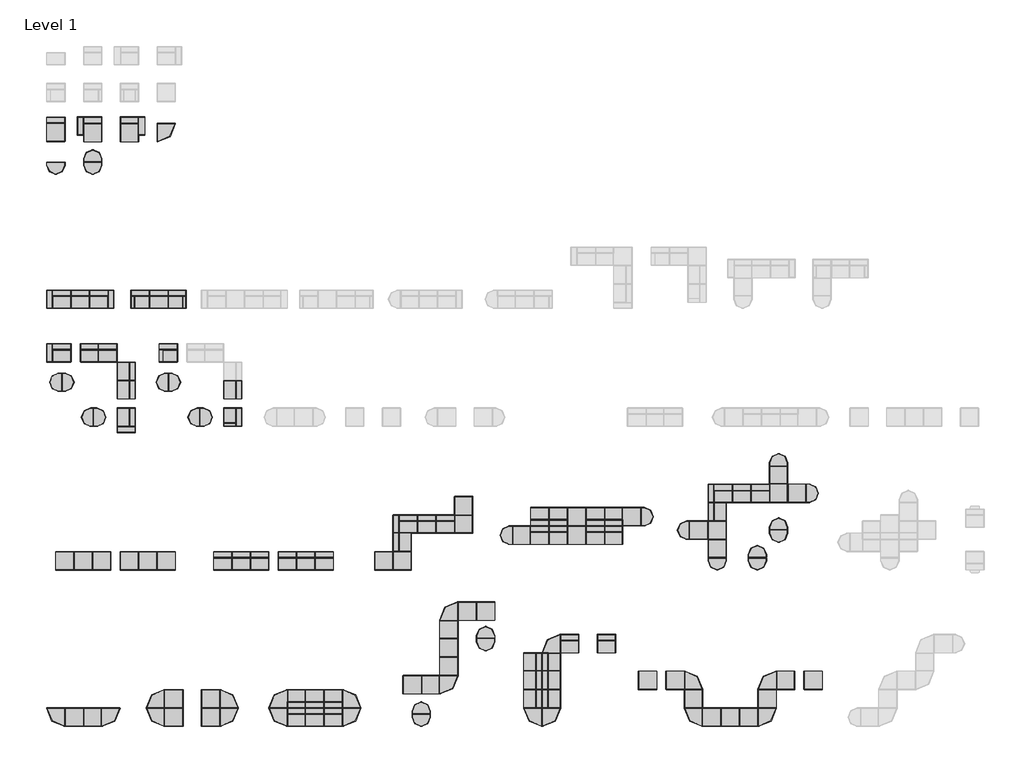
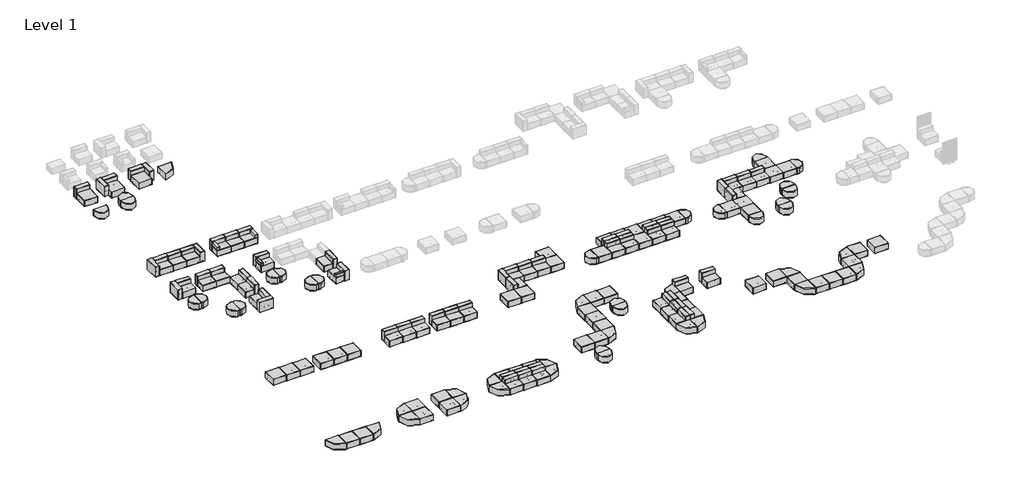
# One storey, part 1 of 2: 132 furniture elements.
"""IFC4 building model written with IfcOpenShell, lengths in millimetres."""

from ifc_helpers import new_model, si_unit, origin, place, context, project, spatial, transform, mapped, element, save
from components import furniture_3ffb0636, furniture_b39dd79e, furniture_9625b8b5, furniture_e837e3ce, furniture_8b4e13db, furniture_611754e7, furniture_8cec5439, furniture_a2253782, furniture_31a3f507, furniture_95acf05c, furniture_133fbe17, furniture_507b51de, furniture_429ba365, furniture_8747c72a, furniture_520fb8d5, furniture_e2d3b3b4, furniture_0edc51ff, furniture_c2843c0f

model = new_model("IFC4")

# Units and contexts
model_context = context("Model", 3, world=origin())
ifc_project = project(units=[si_unit("LENGTHUNIT", "METRE", prefix="MILLI")], contexts=[model_context])

# Site, building, storey
site = spatial("IfcSite", under=ifc_project)
building = spatial("IfcBuilding", under=site)
storey = spatial("IfcBuildingStorey", under=building, Name="Level 1", Elevation=0.0)

# Furniture
placement = place(None, origin())
furniture_shape = furniture_3ffb0636(model_context)
element("IfcFurniture", 1, ObjectType="KFI Studios - Conversa : 24”x36” Seat with Back", at=placement, inside=storey, context=model_context, shape_type="MappedRepresentation", body=[
    mapped(furniture_shape, transform((-1487.8131304, -9663.2904078, 0.0), x_axis=(1.0, 0.0, 0.0), y_axis=(0.0, 1.0, 0.0), z_axis=(0.0, 0.0, 1.0))),
])
element("IfcFurniture", 2, ObjectType="KFI Studios - Conversa : 24”x36” Seat with Back", at=placement, inside=storey, context=model_context, shape_type="MappedRepresentation", body=[
    mapped(furniture_shape, transform((-5380.3336001, -9663.2904078, 0.0), x_axis=(1.0, 0.0, 0.0), y_axis=(0.0, 1.0, 0.0), z_axis=(0.0, 0.0, 1.0))),
])
element("IfcFurniture", 3, ObjectType="KFI Studios - Conversa : 24”x36” Seat with Back", at=placement, inside=storey, context=model_context, shape_type="MappedRepresentation", body=[
    mapped(furniture_shape, transform((-4923.1336001, -12327.6582706, 0.0), x_axis=(1.0, 0.0, 0.0), y_axis=(0.0, 1.0, 0.0), z_axis=(0.0, 0.0, 1.0))),
])
element("IfcFurniture", 4, ObjectType="KFI Studios - Conversa : 24”x36” Seat with Back", at=placement, inside=storey, context=model_context, shape_type="MappedRepresentation", body=[
    mapped(furniture_shape, transform((-4008.7336001, -12327.6582706, 0.0), x_axis=(1.0, 0.0, 0.0), y_axis=(0.0, 1.0, 0.0), z_axis=(0.0, 0.0, 1.0))),
])
element("IfcFurniture", 5, ObjectType="KFI Studios - Conversa : 24”x36” Seat with Back", at=placement, inside=storey, context=model_context, shape_type="MappedRepresentation", body=[
    mapped(furniture_shape, transform((-3246.7336001, -13089.6582706, 0.0), x_axis=(0.0, -1.0, 0.0), y_axis=(1.0, 0.0, 0.0), z_axis=(0.0, 0.0, 1.0))),
])
element("IfcFurniture", 6, ObjectType="KFI Studios - Conversa : 24”x36” Seat with Back", at=placement, inside=storey, context=model_context, shape_type="MappedRepresentation", body=[
    mapped(furniture_shape, transform((-3246.7336001, -14004.0582706, 0.0), x_axis=(0.0, -1.0, 0.0), y_axis=(1.0, 0.0, 0.0), z_axis=(0.0, 0.0, 1.0))),
])
element("IfcFurniture", 7, ObjectType="KFI Studios - Conversa : 24”x36” Seat with Back", at=placement, inside=storey, context=model_context, shape_type="MappedRepresentation", body=[
    mapped(furniture_shape, transform((2049.7647975, -14004.0582706, 0.0), x_axis=(0.0, -1.0, 0.0), y_axis=(1.0, 0.0, 0.0), z_axis=(0.0, 0.0, 1.0))),
])
element("IfcFurniture", 8, ObjectType="KFI Studios - Conversa : 24”x36” Seat with Back", at=placement, inside=storey, context=model_context, shape_type="MappedRepresentation", body=[
    mapped(furniture_shape, transform((3540.7191245, -22668.3371987, 0.0), x_axis=(1.0, 0.0, 0.0), y_axis=(0.0, 1.0, 0.0), z_axis=(0.0, 0.0, 1.0))),
])
element("IfcFurniture", 9, ObjectType="KFI Studios - Conversa : 24”x36” Seat with Back", at=placement, inside=storey, context=model_context, shape_type="MappedRepresentation", body=[
    mapped(furniture_shape, transform((2626.3191245, -22668.3371987, 0.0), x_axis=(1.0, 0.0, 0.0), y_axis=(0.0, 1.0, 0.0), z_axis=(0.0, 0.0, 1.0))),
])
element("IfcFurniture", 10, ObjectType="KFI Studios - Conversa : 24”x36” Seat with Back", at=placement, inside=storey, context=model_context, shape_type="MappedRepresentation", body=[
    mapped(furniture_shape, transform((1711.9191245, -22668.3371987, 0.0), x_axis=(1.0, 0.0, 0.0), y_axis=(0.0, 1.0, 0.0), z_axis=(0.0, 0.0, 1.0))),
])
element("IfcFurniture", 11, ObjectType="KFI Studios - Conversa : 24”x36” Seat with Back", at=placement, inside=storey, context=model_context, shape_type="MappedRepresentation", body=[
    mapped(furniture_shape, transform((6741.1191245, -22668.3371987, 0.0), x_axis=(1.0, 0.0, 0.0), y_axis=(0.0, 1.0, 0.0), z_axis=(0.0, 0.0, 1.0))),
])
element("IfcFurniture", 12, ObjectType="KFI Studios - Conversa : 24”x36” Seat with Back", at=placement, inside=storey, context=model_context, shape_type="MappedRepresentation", body=[
    mapped(furniture_shape, transform((5826.7191245, -22668.3371987, 0.0), x_axis=(1.0, 0.0, 0.0), y_axis=(0.0, 1.0, 0.0), z_axis=(0.0, 0.0, 1.0))),
])
element("IfcFurniture", 13, ObjectType="KFI Studios - Conversa : 24”x36” Seat with Back", at=placement, inside=storey, context=model_context, shape_type="MappedRepresentation", body=[
    mapped(furniture_shape, transform((4912.3191245, -22668.3371987, 0.0), x_axis=(1.0, 0.0, 0.0), y_axis=(0.0, 1.0, 0.0), z_axis=(0.0, 0.0, 1.0))),
])
element("IfcFurniture", 14, ObjectType="KFI Studios - Conversa : 24”x36” Seat with Back", at=placement, inside=storey, context=model_context, shape_type="MappedRepresentation", body=[
    mapped(furniture_shape, transform((10774.0663999, -21601.5371987, 0.0), x_axis=(0.0, 1.0, 0.0), y_axis=(-1.0, 0.0, 0.0), z_axis=(0.0, 0.0, 1.0))),
])
element("IfcFurniture", 15, ObjectType="KFI Studios - Conversa : 24”x36” Seat with Back", at=placement, inside=storey, context=model_context, shape_type="MappedRepresentation", body=[
    mapped(furniture_shape, transform((11840.8663999, -20839.5371987, 0.0), x_axis=(1.0, 0.0, 0.0), y_axis=(0.0, 1.0, 0.0), z_axis=(0.0, 0.0, 1.0))),
])
element("IfcFurniture", 16, ObjectType="KFI Studios - Conversa : 24”x36” Seat with Back", at=placement, inside=storey, context=model_context, shape_type="MappedRepresentation", body=[
    mapped(furniture_shape, transform((12755.2663999, -20839.5371987, 0.0), x_axis=(1.0, 0.0, 0.0), y_axis=(0.0, 1.0, 0.0), z_axis=(0.0, 0.0, 1.0))),
])
element("IfcFurniture", 17, ObjectType="KFI Studios - Conversa : 24”x36” Seat with Back", at=placement, inside=storey, context=model_context, shape_type="MappedRepresentation", body=[
    mapped(furniture_shape, transform((17470.3030579, -21388.4615326, 0.0), x_axis=(1.0, 0.0, 0.0), y_axis=(0.0, 1.0, 0.0), z_axis=(0.0, 0.0, 1.0))),
])
element("IfcFurniture", 18, ObjectType="KFI Studios - Conversa : 24”x36” Seat with Back", at=placement, inside=storey, context=model_context, shape_type="MappedRepresentation", body=[
    mapped(furniture_shape, transform((18384.7030579, -21388.4615326, 0.0), x_axis=(1.0, 0.0, 0.0), y_axis=(0.0, 1.0, 0.0), z_axis=(0.0, 0.0, 1.0))),
])
element("IfcFurniture", 19, ObjectType="KFI Studios - Conversa : 24”x36” Seat with Back", at=placement, inside=storey, context=model_context, shape_type="MappedRepresentation", body=[
    mapped(furniture_shape, transform((20213.5030579, -21388.4615326, 0.0), x_axis=(1.0, 0.0, 0.0), y_axis=(0.0, 1.0, 0.0), z_axis=(0.0, 0.0, 1.0))),
])
element("IfcFurniture", 20, ObjectType="KFI Studios - Conversa : 24”x36” Seat with Back", at=placement, inside=storey, context=model_context, shape_type="MappedRepresentation", body=[
    mapped(furniture_shape, transform((21127.9030579, -21388.4615326, 0.0), x_axis=(1.0, 0.0, 0.0), y_axis=(0.0, 1.0, 0.0), z_axis=(0.0, 0.0, 1.0))),
])
element("IfcFurniture", 21, ObjectType="KFI Studios - Conversa : 24”x36” Seat with Back", at=placement, inside=storey, context=model_context, shape_type="MappedRepresentation", body=[
    mapped(furniture_shape, transform((26437.8923625, -20077.5371987, 0.0), x_axis=(0.0, 1.0, 0.0), y_axis=(-1.0, 0.0, 0.0), z_axis=(0.0, 0.0, 1.0))),
])
element("IfcFurniture", 22, ObjectType="KFI Studios - Conversa : 24”x36” Seat with Back", at=placement, inside=storey, context=model_context, shape_type="MappedRepresentation", body=[
    mapped(furniture_shape, transform((27504.6923625, -19315.5371987, 0.0), x_axis=(1.0, 0.0, 0.0), y_axis=(0.0, 1.0, 0.0), z_axis=(0.0, 0.0, 1.0))),
])
element("IfcFurniture", 23, ObjectType="KFI Studios - Conversa : 24”x36” Seat with Back", at=placement, inside=storey, context=model_context, shape_type="MappedRepresentation", body=[
    mapped(furniture_shape, transform((28419.0923625, -19315.5371987, 0.0), x_axis=(1.0, 0.0, 0.0), y_axis=(0.0, 1.0, 0.0), z_axis=(0.0, 0.0, 1.0))),
])
element("IfcFurniture", 24, ObjectType="KFI Studios - Conversa : 24”x36” Seat with Back", at=placement, inside=storey, context=model_context, shape_type="MappedRepresentation", body=[
    mapped(furniture_shape, transform((5370.1868696, -30440.7371987, 0.0), x_axis=(1.0, 0.0, 0.0), y_axis=(0.0, 1.0, 0.0), z_axis=(0.0, 0.0, 1.0))),
])
element("IfcFurniture", 25, ObjectType="KFI Studios - Conversa : 24”x36” Seat with Back", at=placement, inside=storey, context=model_context, shape_type="MappedRepresentation", body=[
    mapped(furniture_shape, transform((6284.5868696, -30440.7371987, 0.0), x_axis=(1.0, 0.0, 0.0), y_axis=(0.0, 1.0, 0.0), z_axis=(0.0, 0.0, 1.0))),
])
element("IfcFurniture", 26, ObjectType="KFI Studios - Conversa : 24”x36” Seat with Back", at=placement, inside=storey, context=model_context, shape_type="MappedRepresentation", body=[
    mapped(furniture_shape, transform((7198.9868696, -30440.7371987, 0.0), x_axis=(1.0, 0.0, 0.0), y_axis=(0.0, 1.0, 0.0), z_axis=(0.0, 0.0, 1.0))),
])
element("IfcFurniture", 27, ObjectType="KFI Studios - Conversa : 24”x36” Seat with Back", at=placement, inside=storey, context=model_context, shape_type="MappedRepresentation", body=[
    mapped(furniture_shape, transform((16969.4976327, -29373.9371987, 0.0), x_axis=(0.0, -1.0, 0.0), y_axis=(1.0, 0.0, 0.0), z_axis=(0.0, 0.0, 1.0))),
])
element("IfcFurniture", 28, ObjectType="KFI Studios - Conversa : 24”x36” Seat with Back", at=placement, inside=storey, context=model_context, shape_type="MappedRepresentation", body=[
    mapped(furniture_shape, transform((18188.6976327, -29373.9371987, 0.0), x_axis=(0.0, 1.0, 0.0), y_axis=(-1.0, 0.0, 0.0), z_axis=(0.0, 0.0, 1.0))),
])
element("IfcFurniture", 29, ObjectType="KFI Studios - Conversa : 24”x36” Seat with Back", at=placement, inside=storey, context=model_context, shape_type="MappedRepresentation", body=[
    mapped(furniture_shape, transform((18188.6976327, -28459.5371987, 0.0), x_axis=(0.0, 1.0, 0.0), y_axis=(-1.0, 0.0, 0.0), z_axis=(0.0, 0.0, 1.0))),
])
element("IfcFurniture", 30, ObjectType="KFI Studios - Conversa : 24”x36” Seat with Back", at=placement, inside=storey, context=model_context, shape_type="MappedRepresentation", body=[
    mapped(furniture_shape, transform((18188.6976327, -27545.1371987, 0.0), x_axis=(0.0, 1.0, 0.0), y_axis=(-1.0, 0.0, 0.0), z_axis=(0.0, 0.0, 1.0))),
])
element("IfcFurniture", 31, ObjectType="KFI Studios - Conversa : 24”x36” Seat with Back", at=placement, inside=storey, context=model_context, shape_type="MappedRepresentation", body=[
    mapped(furniture_shape, transform((16969.4976327, -28459.5371987, 0.0), x_axis=(0.0, -1.0, 0.0), y_axis=(1.0, 0.0, 0.0), z_axis=(0.0, 0.0, 1.0))),
])
element("IfcFurniture", 32, ObjectType="KFI Studios - Conversa : 24”x36” Seat with Back", at=placement, inside=storey, context=model_context, shape_type="MappedRepresentation", body=[
    mapped(furniture_shape, transform((16969.4976327, -27545.1371987, 0.0), x_axis=(0.0, -1.0, 0.0), y_axis=(1.0, 0.0, 0.0), z_axis=(0.0, 0.0, 1.0))),
])
element("IfcFurniture", 33, ObjectType="KFI Studios - Conversa : 24”x36” Seat with Back", at=placement, inside=storey, context=model_context, shape_type="MappedRepresentation", body=[
    mapped(furniture_shape, transform((18950.6976327, -26783.1371987, 0.0), x_axis=(1.0, 0.0, 0.0), y_axis=(0.0, 1.0, 0.0), z_axis=(0.0, 0.0, 1.0))),
])
element("IfcFurniture", 34, ObjectType="KFI Studios - Conversa : 24”x36” Seat with Back", at=placement, inside=storey, context=model_context, shape_type="MappedRepresentation", body=[
    mapped(furniture_shape, transform((20779.4976327, -26783.1371987, 0.0), x_axis=(1.0, 0.0, 0.0), y_axis=(0.0, 1.0, 0.0), z_axis=(0.0, 0.0, 1.0))),
])
furniture_2_shape = furniture_b39dd79e(model_context)
furniture_3_shape = furniture_9625b8b5(model_context)
element("IfcFurniture", 35, ObjectType="KFI Studios - Conversa : 24”x36” Seat - Left Corner", at=placement, inside=storey, context=model_context, shape_type="MappedRepresentation", body=[
    mapped(furniture_2_shape, transform((-4465.9336001, -9663.2904078, 0.0), x_axis=(1.0, 0.0, 0.0), y_axis=(0.0, 1.0, 0.0), z_axis=(0.0, 0.0, 1.0))),
    mapped(furniture_3_shape, transform((-4465.9336001, -9663.2904078, 0.0), x_axis=(1.0, 0.0, 0.0), y_axis=(0.0, 1.0, 0.0), z_axis=(0.0, 0.0, 1.0))),
])
element("IfcFurniture", 36, ObjectType="KFI Studios - Conversa : 24”x36” Seat - Left Corner", at=placement, inside=storey, context=model_context, shape_type="MappedRepresentation", body=[
    mapped(furniture_2_shape, transform((-3246.7336001, -15375.6582706, 0.0), x_axis=(0.0, -1.0, 0.0), y_axis=(1.0, 0.0, 0.0), z_axis=(0.0, 0.0, 1.0))),
    mapped(furniture_3_shape, transform((-3246.7336001, -15375.6582706, 0.0), x_axis=(0.0, -1.0, 0.0), y_axis=(1.0, 0.0, 0.0), z_axis=(0.0, 0.0, 1.0))),
])
furniture_4_shape = furniture_e837e3ce(model_context)
element("IfcFurniture", 37, ObjectType="KFI Studios - Conversa : 24”x36” Seat - Right Corner", at=placement, inside=storey, context=model_context, shape_type="MappedRepresentation", body=[
    mapped(furniture_4_shape, transform((-6294.7336001, -9663.2904078, 0.0), x_axis=(1.0, 0.0, 0.0), y_axis=(0.0, 1.0, 0.0), z_axis=(0.0, 0.0, 1.0))),
    mapped(furniture_3_shape, transform((-6294.7336001, -9663.2904078, 0.0), x_axis=(1.0, 0.0, 0.0), y_axis=(0.0, 1.0, 0.0), z_axis=(0.0, 0.0, 1.0))),
])
element("IfcFurniture", 38, ObjectType="KFI Studios - Conversa : 24”x36” Seat - Right Corner", at=placement, inside=storey, context=model_context, shape_type="MappedRepresentation", body=[
    mapped(furniture_4_shape, transform((-6294.7336001, -12327.6582706, 0.0), x_axis=(1.0, 0.0, 0.0), y_axis=(0.0, 1.0, 0.0), z_axis=(0.0, 0.0, 1.0))),
    mapped(furniture_3_shape, transform((-6294.7336001, -12327.6582706, 0.0), x_axis=(1.0, 0.0, 0.0), y_axis=(0.0, 1.0, 0.0), z_axis=(0.0, 0.0, 1.0))),
])
element("IfcFurniture", 39, ObjectType="KFI Studios - Conversa : 24”x36” Seat - Right Corner", at=placement, inside=storey, context=model_context, shape_type="MappedRepresentation", body=[
    mapped(furniture_4_shape, transform((10926.4663999, -20839.5371987, 0.0), x_axis=(1.0, 0.0, 0.0), y_axis=(0.0, 1.0, 0.0), z_axis=(0.0, 0.0, 1.0))),
    mapped(furniture_3_shape, transform((10926.4663999, -20839.5371987, 0.0), x_axis=(1.0, 0.0, 0.0), y_axis=(0.0, 1.0, 0.0), z_axis=(0.0, 0.0, 1.0))),
])
element("IfcFurniture", 40, ObjectType="KFI Studios - Conversa : 24”x36” Seat - Right Corner", at=placement, inside=storey, context=model_context, shape_type="MappedRepresentation", body=[
    mapped(furniture_4_shape, transform((26590.2923625, -19315.5371987, 0.0), x_axis=(1.0, 0.0, 0.0), y_axis=(0.0, 1.0, 0.0), z_axis=(0.0, 0.0, 1.0))),
    mapped(furniture_3_shape, transform((26590.2923625, -19315.5371987, 0.0), x_axis=(1.0, 0.0, 0.0), y_axis=(0.0, 1.0, 0.0), z_axis=(0.0, 0.0, 1.0))),
])
furniture_5_shape = furniture_8b4e13db(model_context)
furniture_6_shape = furniture_611754e7(model_context)
element("IfcFurniture", 41, ObjectType="KFI Studios - Conversa : 24”x36” Seat - Right Corner, Small Arm", at=placement, inside=storey, context=model_context, shape_type="MappedRepresentation", body=[
    mapped(furniture_5_shape, transform((-2402.2131304, -9663.2904078, 0.0), x_axis=(1.0, 0.0, 0.0), y_axis=(0.0, 1.0, 0.0), z_axis=(0.0, 0.0, 1.0))),
    mapped(furniture_6_shape, transform((-2402.2131304, -9663.2904078, 0.0), x_axis=(1.0, 0.0, 0.0), y_axis=(0.0, 1.0, 0.0), z_axis=(0.0, 0.0, 1.0))),
])
element("IfcFurniture", 42, ObjectType="KFI Studios - Conversa : 24”x36” Seat - Right Corner, Small Arm", at=placement, inside=storey, context=model_context, shape_type="MappedRepresentation", body=[
    mapped(furniture_5_shape, transform((-998.2352025, -12327.6582706, 0.0), x_axis=(1.0, 0.0, 0.0), y_axis=(0.0, 1.0, 0.0), z_axis=(0.0, 0.0, 1.0))),
    mapped(furniture_6_shape, transform((-998.2352025, -12327.6582706, 0.0), x_axis=(1.0, 0.0, 0.0), y_axis=(0.0, 1.0, 0.0), z_axis=(0.0, 0.0, 1.0))),
])
furniture_7_shape = furniture_8cec5439(model_context)
element("IfcFurniture", 43, ObjectType="KFI Studios - Conversa : 24”x36” Seat - Left Corner, Small Arm", at=placement, inside=storey, context=model_context, shape_type="MappedRepresentation", body=[
    mapped(furniture_7_shape, transform((-573.4131304, -9663.2904078, 0.0), x_axis=(1.0, 0.0, 0.0), y_axis=(0.0, 1.0, 0.0), z_axis=(0.0, 0.0, 1.0))),
    mapped(furniture_6_shape, transform((-573.4131304, -9663.2904078, 0.0), x_axis=(1.0, 0.0, 0.0), y_axis=(0.0, 1.0, 0.0), z_axis=(0.0, 0.0, 1.0))),
])
element("IfcFurniture", 44, ObjectType="KFI Studios - Conversa : 24”x36” Seat - Left Corner, Small Arm", at=placement, inside=storey, context=model_context, shape_type="MappedRepresentation", body=[
    mapped(furniture_7_shape, transform((2049.7647975, -15375.6582706, 0.0), x_axis=(0.0, -1.0, 0.0), y_axis=(1.0, 0.0, 0.0), z_axis=(0.0, 0.0, 1.0))),
    mapped(furniture_6_shape, transform((2049.7647975, -15375.6582706, 0.0), x_axis=(0.0, -1.0, 0.0), y_axis=(1.0, 0.0, 0.0), z_axis=(0.0, 0.0, 1.0))),
])
furniture_8_shape = furniture_a2253782(model_context)
element("IfcFurniture", 45, ObjectType="KFI Studios - Conversa : 36”x36” Seat", at=placement, inside=storey, context=model_context, shape_type="MappedRepresentation", body=[
    mapped(furniture_8_shape, transform((-4313.5336001, -22515.9371987, 0.0), x_axis=(1.0, 0.0, 0.0), y_axis=(0.0, 1.0, 0.0), z_axis=(0.0, 0.0, 1.0))),
])
element("IfcFurniture", 46, ObjectType="KFI Studios - Conversa : 36”x36” Seat", at=placement, inside=storey, context=model_context, shape_type="MappedRepresentation", body=[
    mapped(furniture_8_shape, transform((-5227.9336001, -22515.9371987, 0.0), x_axis=(1.0, 0.0, 0.0), y_axis=(0.0, 1.0, 0.0), z_axis=(0.0, 0.0, 1.0))),
])
element("IfcFurniture", 47, ObjectType="KFI Studios - Conversa : 36”x36” Seat", at=placement, inside=storey, context=model_context, shape_type="MappedRepresentation", body=[
    mapped(furniture_8_shape, transform((-6142.3336001, -22515.9371987, 0.0), x_axis=(1.0, 0.0, 0.0), y_axis=(0.0, 1.0, 0.0), z_axis=(0.0, 0.0, 1.0))),
])
element("IfcFurniture", 48, ObjectType="KFI Studios - Conversa : 36”x36” Seat", at=placement, inside=storey, context=model_context, shape_type="MappedRepresentation", body=[
    mapped(furniture_8_shape, transform((-1113.1336001, -22515.9371987, 0.0), x_axis=(1.0, 0.0, 0.0), y_axis=(0.0, 1.0, 0.0), z_axis=(0.0, 0.0, 1.0))),
])
element("IfcFurniture", 49, ObjectType="KFI Studios - Conversa : 36”x36” Seat", at=placement, inside=storey, context=model_context, shape_type="MappedRepresentation", body=[
    mapped(furniture_8_shape, transform((-2027.5336001, -22515.9371987, 0.0), x_axis=(1.0, 0.0, 0.0), y_axis=(0.0, 1.0, 0.0), z_axis=(0.0, 0.0, 1.0))),
])
element("IfcFurniture", 50, ObjectType="KFI Studios - Conversa : 36”x36” Seat", at=placement, inside=storey, context=model_context, shape_type="MappedRepresentation", body=[
    mapped(furniture_8_shape, transform((-2941.9336001, -22515.9371987, 0.0), x_axis=(1.0, 0.0, 0.0), y_axis=(0.0, 1.0, 0.0), z_axis=(0.0, 0.0, 1.0))),
])
element("IfcFurniture", 51, ObjectType="KFI Studios - Conversa : 36”x36” Seat", at=placement, inside=storey, context=model_context, shape_type="MappedRepresentation", body=[
    mapped(furniture_8_shape, transform((10621.6663999, -22515.9371987, 0.0), x_axis=(0.0, 1.0, 0.0), y_axis=(-1.0, 0.0, 0.0), z_axis=(0.0, 0.0, 1.0))),
])
element("IfcFurniture", 52, ObjectType="KFI Studios - Conversa : 36”x36” Seat", at=placement, inside=storey, context=model_context, shape_type="MappedRepresentation", body=[
    mapped(furniture_8_shape, transform((9707.2663999, -22515.9371987, 0.0), x_axis=(1.0, 0.0, 0.0), y_axis=(0.0, 1.0, 0.0), z_axis=(0.0, 0.0, 1.0))),
])
element("IfcFurniture", 53, ObjectType="KFI Studios - Conversa : 36”x36” Seat", at=placement, inside=storey, context=model_context, shape_type="MappedRepresentation", body=[
    mapped(furniture_8_shape, transform((13669.6663999, -20687.1371987, 0.0), x_axis=(1.0, 0.0, 0.0), y_axis=(0.0, 1.0, 0.0), z_axis=(0.0, 0.0, 1.0))),
])
element("IfcFurniture", 54, ObjectType="KFI Studios - Conversa : 36”x36” Seat", at=placement, inside=storey, context=model_context, shape_type="MappedRepresentation", body=[
    mapped(furniture_8_shape, transform((13669.6663999, -19772.7371987, 0.0), x_axis=(1.0, 0.0, 0.0), y_axis=(0.0, 1.0, 0.0), z_axis=(0.0, 0.0, 1.0))),
])
element("IfcFurniture", 55, ObjectType="KFI Studios - Conversa : 36”x36” Seat", at=placement, inside=storey, context=model_context, shape_type="MappedRepresentation", body=[
    mapped(furniture_8_shape, transform((16555.9030579, -21236.0615326, 0.0), x_axis=(1.0, 0.0, 0.0), y_axis=(0.0, 1.0, 0.0), z_axis=(0.0, 0.0, 1.0))),
])
element("IfcFurniture", 56, ObjectType="KFI Studios - Conversa : 36”x36” Seat", at=placement, inside=storey, context=model_context, shape_type="MappedRepresentation", body=[
    mapped(furniture_8_shape, transform((19299.1030579, -21236.0615326, 0.0), x_axis=(1.0, 0.0, 0.0), y_axis=(0.0, 1.0, 0.0), z_axis=(0.0, 0.0, 1.0))),
])
element("IfcFurniture", 57, ObjectType="KFI Studios - Conversa : 36”x36” Seat", at=placement, inside=storey, context=model_context, shape_type="MappedRepresentation", body=[
    mapped(furniture_8_shape, transform((19299.1030579, -20321.6615326, 0.0), x_axis=(1.0, 0.0, 0.0), y_axis=(0.0, 1.0, 0.0), z_axis=(0.0, 0.0, 1.0))),
])
element("IfcFurniture", 58, ObjectType="KFI Studios - Conversa : 36”x36” Seat", at=placement, inside=storey, context=model_context, shape_type="MappedRepresentation", body=[
    mapped(furniture_8_shape, transform((22042.3030579, -20321.6615326, 0.0), x_axis=(1.0, 0.0, 0.0), y_axis=(0.0, 1.0, 0.0), z_axis=(0.0, 0.0, 1.0))),
])
element("IfcFurniture", 59, ObjectType="KFI Studios - Conversa : 36”x36” Seat", at=placement, inside=storey, context=model_context, shape_type="MappedRepresentation", body=[
    mapped(furniture_8_shape, transform((26285.4923625, -20991.9371987, 0.0), x_axis=(0.0, 1.0, 0.0), y_axis=(-1.0, 0.0, 0.0), z_axis=(0.0, 0.0, 1.0))),
])
element("IfcFurniture", 60, ObjectType="KFI Studios - Conversa : 36”x36” Seat", at=placement, inside=storey, context=model_context, shape_type="MappedRepresentation", body=[
    mapped(furniture_8_shape, transform((25371.0923625, -20991.9371987, 0.0), x_axis=(1.0, 0.0, 0.0), y_axis=(0.0, 1.0, 0.0), z_axis=(0.0, 0.0, 1.0))),
])
element("IfcFurniture", 61, ObjectType="KFI Studios - Conversa : 36”x36” Seat", at=placement, inside=storey, context=model_context, shape_type="MappedRepresentation", body=[
    mapped(furniture_8_shape, transform((29333.4923625, -19163.1371987, 0.0), x_axis=(1.0, 0.0, 0.0), y_axis=(0.0, 1.0, 0.0), z_axis=(0.0, 0.0, 1.0))),
])
element("IfcFurniture", 62, ObjectType="KFI Studios - Conversa : 36”x36” Seat", at=placement, inside=storey, context=model_context, shape_type="MappedRepresentation", body=[
    mapped(furniture_8_shape, transform((29333.4923625, -18248.7371987, 0.0), x_axis=(1.0, 0.0, 0.0), y_axis=(0.0, 1.0, 0.0), z_axis=(0.0, 0.0, 1.0))),
])
element("IfcFurniture", 63, ObjectType="KFI Studios - Conversa : 36”x36” Seat", at=placement, inside=storey, context=model_context, shape_type="MappedRepresentation", body=[
    mapped(furniture_8_shape, transform((30247.8923625, -19163.1371987, 0.0), x_axis=(1.0, 0.0, 0.0), y_axis=(0.0, 1.0, 0.0), z_axis=(0.0, 0.0, 1.0))),
])
element("IfcFurniture", 64, ObjectType="KFI Studios - Conversa : 36”x36” Seat", at=placement, inside=storey, context=model_context, shape_type="MappedRepresentation", body=[
    mapped(furniture_8_shape, transform((26285.4923625, -21906.3371987, 0.0), x_axis=(1.0, 0.0, 0.0), y_axis=(0.0, 1.0, 0.0), z_axis=(0.0, 0.0, 1.0))),
])
element("IfcFurniture", 65, ObjectType="KFI Studios - Conversa : 36”x36” Seat", at=placement, inside=storey, context=model_context, shape_type="MappedRepresentation", body=[
    mapped(furniture_8_shape, transform((-5685.1336001, -30288.3371987, 0.0), x_axis=(1.0, 0.0, 0.0), y_axis=(0.0, 1.0, 0.0), z_axis=(0.0, 0.0, 1.0))),
])
element("IfcFurniture", 66, ObjectType="KFI Studios - Conversa : 36”x36” Seat", at=placement, inside=storey, context=model_context, shape_type="MappedRepresentation", body=[
    mapped(furniture_8_shape, transform((-4770.7336001, -30288.3371987, 0.0), x_axis=(1.0, 0.0, 0.0), y_axis=(0.0, 1.0, 0.0), z_axis=(0.0, 0.0, 1.0))),
])
element("IfcFurniture", 67, ObjectType="KFI Studios - Conversa : 36”x36” Seat", at=placement, inside=storey, context=model_context, shape_type="MappedRepresentation", body=[
    mapped(furniture_8_shape, transform((-725.8131304, -30288.3371987, 0.0), x_axis=(1.0, 0.0, 0.0), y_axis=(0.0, 1.0, 0.0), z_axis=(0.0, 0.0, 1.0))),
])
element("IfcFurniture", 68, ObjectType="KFI Studios - Conversa : 36”x36” Seat", at=placement, inside=storey, context=model_context, shape_type="MappedRepresentation", body=[
    mapped(furniture_8_shape, transform((-725.8131304, -29373.9371987, 0.0), x_axis=(1.0, 0.0, 0.0), y_axis=(0.0, 1.0, 0.0), z_axis=(0.0, 0.0, 1.0))),
])
element("IfcFurniture", 69, ObjectType="KFI Studios - Conversa : 36”x36” Seat", at=placement, inside=storey, context=model_context, shape_type="MappedRepresentation", body=[
    mapped(furniture_8_shape, transform((11114.432917, -28671.5072071, 0.0), x_axis=(1.0, 0.0, 0.0), y_axis=(0.0, 1.0, 0.0), z_axis=(0.0, 0.0, 1.0))),
])
element("IfcFurniture", 70, ObjectType="KFI Studios - Conversa : 36”x36” Seat", at=placement, inside=storey, context=model_context, shape_type="MappedRepresentation", body=[
    mapped(furniture_8_shape, transform((12028.832917, -28671.5072071, 0.0), x_axis=(1.0, 0.0, 0.0), y_axis=(0.0, 1.0, 0.0), z_axis=(0.0, 0.0, 1.0))),
])
element("IfcFurniture", 71, ObjectType="KFI Studios - Conversa : 36”x36” Seat", at=placement, inside=storey, context=model_context, shape_type="MappedRepresentation", body=[
    mapped(furniture_8_shape, transform((12943.232917, -27757.1072071, 0.0), x_axis=(1.0, 0.0, 0.0), y_axis=(0.0, 1.0, 0.0), z_axis=(0.0, 0.0, 1.0))),
])
element("IfcFurniture", 72, ObjectType="KFI Studios - Conversa : 36”x36” Seat", at=placement, inside=storey, context=model_context, shape_type="MappedRepresentation", body=[
    mapped(furniture_8_shape, transform((12943.232917, -26842.7072071, 0.0), x_axis=(1.0, 0.0, 0.0), y_axis=(0.0, 1.0, 0.0), z_axis=(0.0, 0.0, 1.0))),
])
element("IfcFurniture", 73, ObjectType="KFI Studios - Conversa : 36”x36” Seat", at=placement, inside=storey, context=model_context, shape_type="MappedRepresentation", body=[
    mapped(furniture_8_shape, transform((12943.232917, -25928.3072071, 0.0), x_axis=(1.0, 0.0, 0.0), y_axis=(0.0, 1.0, 0.0), z_axis=(0.0, 0.0, 1.0))),
])
element("IfcFurniture", 74, ObjectType="KFI Studios - Conversa : 36”x36” Seat", at=placement, inside=storey, context=model_context, shape_type="MappedRepresentation", body=[
    mapped(furniture_8_shape, transform((13857.632917, -25013.9072071, 0.0), x_axis=(1.0, 0.0, 0.0), y_axis=(0.0, 1.0, 0.0), z_axis=(0.0, 0.0, 1.0))),
])
element("IfcFurniture", 75, ObjectType="KFI Studios - Conversa : 36”x36” Seat", at=placement, inside=storey, context=model_context, shape_type="MappedRepresentation", body=[
    mapped(furniture_8_shape, transform((14772.032917, -25013.9072071, 0.0), x_axis=(1.0, 0.0, 0.0), y_axis=(0.0, 1.0, 0.0), z_axis=(0.0, 0.0, 1.0))),
])
element("IfcFurniture", 76, ObjectType="KFI Studios - Conversa : 36”x36” Seat", at=placement, inside=storey, context=model_context, shape_type="MappedRepresentation", body=[
    mapped(furniture_8_shape, transform((27850.6523878, -30288.3371987, 0.0), x_axis=(1.0, 0.0, 0.0), y_axis=(0.0, 1.0, 0.0), z_axis=(0.0, 0.0, 1.0))),
])
element("IfcFurniture", 77, ObjectType="KFI Studios - Conversa : 36”x36” Seat", at=placement, inside=storey, context=model_context, shape_type="MappedRepresentation", body=[
    mapped(furniture_8_shape, transform((26936.2523878, -30288.3371987, 0.0), x_axis=(1.0, 0.0, 0.0), y_axis=(0.0, 1.0, 0.0), z_axis=(0.0, 0.0, 1.0))),
])
element("IfcFurniture", 78, ObjectType="KFI Studios - Conversa : 36”x36” Seat", at=placement, inside=storey, context=model_context, shape_type="MappedRepresentation", body=[
    mapped(furniture_8_shape, transform((26021.8523878, -30288.3371987, 0.0), x_axis=(1.0, 0.0, 0.0), y_axis=(0.0, 1.0, 0.0), z_axis=(0.0, 0.0, 1.0))),
])
element("IfcFurniture", 79, ObjectType="KFI Studios - Conversa : 36”x36” Seat", at=placement, inside=storey, context=model_context, shape_type="MappedRepresentation", body=[
    mapped(furniture_8_shape, transform((25107.4523878, -29373.9371987, 0.0), x_axis=(1.0, 0.0, 0.0), y_axis=(0.0, 1.0, 0.0), z_axis=(0.0, 0.0, 1.0))),
])
element("IfcFurniture", 80, ObjectType="KFI Studios - Conversa : 36”x36” Seat", at=placement, inside=storey, context=model_context, shape_type="MappedRepresentation", body=[
    mapped(furniture_8_shape, transform((24193.0523878, -28459.5371987, 0.0), x_axis=(1.0, 0.0, 0.0), y_axis=(0.0, 1.0, 0.0), z_axis=(0.0, 0.0, 1.0))),
])
element("IfcFurniture", 81, ObjectType="KFI Studios - Conversa : 36”x36” Seat", at=placement, inside=storey, context=model_context, shape_type="MappedRepresentation", body=[
    mapped(furniture_8_shape, transform((22821.4523878, -28459.5371987, 0.0), x_axis=(1.0, 0.0, 0.0), y_axis=(0.0, 1.0, 0.0), z_axis=(0.0, 0.0, 1.0))),
])
furniture_9_shape = furniture_31a3f507(model_context)
element("IfcFurniture", 82, ObjectType="KFI Studios - Conversa : 36”x36” Seat with Back", at=placement, inside=storey, context=model_context, shape_type="MappedRepresentation", body=[
    mapped(furniture_9_shape, transform((-6591.037549, -1217.2499132, 0.0), x_axis=(1.0, 0.0, 0.0), y_axis=(0.0, 1.0, 0.0), z_axis=(0.0, 0.0, 1.0))),
])
furniture_10_shape = furniture_95acf05c(model_context)
furniture_11_shape = furniture_133fbe17(model_context)
element("IfcFurniture", 83, ObjectType="KFI Studios - Conversa : 36”x36” Seat - Left Corner", at=placement, inside=storey, context=model_context, shape_type="MappedRepresentation", body=[
    mapped(furniture_10_shape, transform((-2933.437549, -1229.9499132, 0.0), x_axis=(1.0, 0.0, 0.0), y_axis=(0.0, 1.0, 0.0), z_axis=(0.0, 0.0, 1.0))),
    mapped(furniture_11_shape, transform((-2933.437549, -1229.9499132, 0.0), x_axis=(1.0, 0.0, 0.0), y_axis=(0.0, 1.0, 0.0), z_axis=(0.0, 0.0, 1.0))),
])
furniture_12_shape = furniture_507b51de(model_context)
element("IfcFurniture", 84, ObjectType="KFI Studios - Conversa : 36”x36” Seat - Right Corner", at=placement, inside=storey, context=model_context, shape_type="MappedRepresentation", body=[
    mapped(furniture_12_shape, transform((-4762.237549, -1229.9499132, 0.0), x_axis=(1.0, 0.0, 0.0), y_axis=(0.0, 1.0, 0.0), z_axis=(0.0, 0.0, 1.0))),
    mapped(furniture_11_shape, transform((-4762.237549, -1229.9499132, 0.0), x_axis=(1.0, 0.0, 0.0), y_axis=(0.0, 1.0, 0.0), z_axis=(0.0, 0.0, 1.0))),
])
furniture_13_shape = furniture_429ba365(model_context)
element("IfcFurniture", 85, ObjectType="KFI Studios - Conversa - Corner Seat : KFI Studios - Conversa - Corner Seat", at=placement, inside=storey, context=model_context, shape_type="MappedRepresentation", body=[
    mapped(furniture_13_shape, transform((-1104.637549, -1229.9499132, 0.0), x_axis=(1.0, 0.0, 0.0), y_axis=(0.0, 1.0, 0.0), z_axis=(0.0, 0.0, 1.0))),
])
element("IfcFurniture", 86, ObjectType="KFI Studios - Conversa - Corner Seat : KFI Studios - Conversa - Corner Seat", at=placement, inside=storey, context=model_context, shape_type="MappedRepresentation", body=[
    mapped(furniture_13_shape, transform((-6599.5336001, -30288.3371987, 0.0), x_axis=(0.0, -1.0, 0.0), y_axis=(1.0, 0.0, 0.0), z_axis=(0.0, 0.0, 1.0))),
])
element("IfcFurniture", 87, ObjectType="KFI Studios - Conversa - Corner Seat : KFI Studios - Conversa - Corner Seat", at=placement, inside=storey, context=model_context, shape_type="MappedRepresentation", body=[
    mapped(furniture_13_shape, transform((-3856.3336001, -30288.3371987, 0.0), x_axis=(1.0, 0.0, 0.0), y_axis=(0.0, 1.0, 0.0), z_axis=(0.0, 0.0, 1.0))),
])
element("IfcFurniture", 88, ObjectType="KFI Studios - Conversa - Corner Seat : KFI Studios - Conversa - Corner Seat", at=placement, inside=storey, context=model_context, shape_type="MappedRepresentation", body=[
    mapped(furniture_13_shape, transform((-1640.2131304, -30288.3371987, 0.0), x_axis=(0.0, -1.0, 0.0), y_axis=(1.0, 0.0, 0.0), z_axis=(0.0, 0.0, 1.0))),
])
element("IfcFurniture", 89, ObjectType="KFI Studios - Conversa - Corner Seat : KFI Studios - Conversa - Corner Seat", at=placement, inside=storey, context=model_context, shape_type="MappedRepresentation", body=[
    mapped(furniture_13_shape, transform((-1640.2131304, -29373.9371987, 0.0), x_axis=(-1.0, 0.0, 0.0), y_axis=(0.0, -1.0, 0.0), z_axis=(0.0, 0.0, 1.0))),
])
element("IfcFurniture", 90, ObjectType="KFI Studios - Conversa - Corner Seat : KFI Studios - Conversa - Corner Seat", at=placement, inside=storey, context=model_context, shape_type="MappedRepresentation", body=[
    mapped(furniture_13_shape, transform((8113.3868696, -30288.3371987, 0.0), x_axis=(1.0, 0.0, 0.0), y_axis=(0.0, 1.0, 0.0), z_axis=(0.0, 0.0, 1.0))),
])
element("IfcFurniture", 91, ObjectType="KFI Studios - Conversa - Corner Seat : KFI Studios - Conversa - Corner Seat", at=placement, inside=storey, context=model_context, shape_type="MappedRepresentation", body=[
    mapped(furniture_13_shape, transform((8113.3868696, -29373.9371987, 0.0), x_axis=(0.0, 1.0, 0.0), y_axis=(-1.0, 0.0, 0.0), z_axis=(0.0, 0.0, 1.0))),
])
element("IfcFurniture", 92, ObjectType="KFI Studios - Conversa - Corner Seat : KFI Studios - Conversa - Corner Seat", at=placement, inside=storey, context=model_context, shape_type="MappedRepresentation", body=[
    mapped(furniture_13_shape, transform((4455.7868696, -29373.9371987, 0.0), x_axis=(-1.0, 0.0, 0.0), y_axis=(0.0, -1.0, 0.0), z_axis=(0.0, 0.0, 1.0))),
])
element("IfcFurniture", 93, ObjectType="KFI Studios - Conversa - Corner Seat : KFI Studios - Conversa - Corner Seat", at=placement, inside=storey, context=model_context, shape_type="MappedRepresentation", body=[
    mapped(furniture_13_shape, transform((4455.7868696, -30288.3371987, 0.0), x_axis=(0.0, -1.0, 0.0), y_axis=(1.0, 0.0, 0.0), z_axis=(0.0, 0.0, 1.0))),
])
element("IfcFurniture", 94, ObjectType="KFI Studios - Conversa - Corner Seat : KFI Studios - Conversa - Corner Seat", at=placement, inside=storey, context=model_context, shape_type="MappedRepresentation", body=[
    mapped(furniture_13_shape, transform((12943.232917, -28671.5072071, 0.0), x_axis=(1.0, 0.0, 0.0), y_axis=(0.0, 1.0, 0.0), z_axis=(0.0, 0.0, 1.0))),
])
element("IfcFurniture", 95, ObjectType="KFI Studios - Conversa - Corner Seat : KFI Studios - Conversa - Corner Seat", at=placement, inside=storey, context=model_context, shape_type="MappedRepresentation", body=[
    mapped(furniture_13_shape, transform((12943.232917, -25013.9072071, 0.0), x_axis=(-1.0, 0.0, 0.0), y_axis=(0.0, -1.0, 0.0), z_axis=(0.0, 0.0, 1.0))),
])
element("IfcFurniture", 96, ObjectType="KFI Studios - Conversa - Corner Seat : KFI Studios - Conversa - Corner Seat", at=placement, inside=storey, context=model_context, shape_type="MappedRepresentation", body=[
    mapped(furniture_13_shape, transform((18036.2976327, -30288.3371987, 0.0), x_axis=(1.0, 0.0, 0.0), y_axis=(0.0, 1.0, 0.0), z_axis=(0.0, 0.0, 1.0))),
])
element("IfcFurniture", 97, ObjectType="KFI Studios - Conversa - Corner Seat : KFI Studios - Conversa - Corner Seat", at=placement, inside=storey, context=model_context, shape_type="MappedRepresentation", body=[
    mapped(furniture_13_shape, transform((17121.8976327, -30288.3371987, 0.0), x_axis=(0.0, -1.0, 0.0), y_axis=(1.0, 0.0, 0.0), z_axis=(0.0, 0.0, 1.0))),
])
element("IfcFurniture", 98, ObjectType="KFI Studios - Conversa - Corner Seat : KFI Studios - Conversa - Corner Seat", at=placement, inside=storey, context=model_context, shape_type="MappedRepresentation", body=[
    mapped(furniture_13_shape, transform((18036.2976327, -26630.7371987, 0.0), x_axis=(-1.0, 0.0, 0.0), y_axis=(0.0, -1.0, 0.0), z_axis=(0.0, 0.0, 1.0))),
])
element("IfcFurniture", 99, ObjectType="KFI Studios - Conversa - Corner Seat : KFI Studios - Conversa - Corner Seat", at=placement, inside=storey, context=model_context, shape_type="MappedRepresentation", body=[
    mapped(furniture_13_shape, transform((28765.0523878, -30288.3371987, 0.0), x_axis=(1.0, 0.0, 0.0), y_axis=(0.0, 1.0, 0.0), z_axis=(0.0, 0.0, 1.0))),
])
element("IfcFurniture", 100, ObjectType="KFI Studios - Conversa - Corner Seat : KFI Studios - Conversa - Corner Seat", at=placement, inside=storey, context=model_context, shape_type="MappedRepresentation", body=[
    mapped(furniture_13_shape, transform((25107.4523878, -30288.3371987, 0.0), x_axis=(0.0, -1.0, 0.0), y_axis=(1.0, 0.0, 0.0), z_axis=(0.0, 0.0, 1.0))),
])
element("IfcFurniture", 101, ObjectType="KFI Studios - Conversa - Corner Seat : KFI Studios - Conversa - Corner Seat", at=placement, inside=storey, context=model_context, shape_type="MappedRepresentation", body=[
    mapped(furniture_13_shape, transform((25107.4523878, -28459.5371987, 0.0), x_axis=(0.0, 1.0, 0.0), y_axis=(-1.0, 0.0, 0.0), z_axis=(0.0, 0.0, 1.0))),
])
furniture_14_shape = furniture_8747c72a(model_context)
element("IfcFurniture", 102, ObjectType="KFI Studios - Conversa - Half Round Seat : KFI Studios - Conversa - Half Round Seat", at=placement, inside=storey, context=model_context, shape_type="MappedRepresentation", body=[
    mapped(furniture_14_shape, transform((-6591.037549, -2995.2499132, 0.0), x_axis=(1.0, 0.0, 0.0), y_axis=(0.0, 1.0, 0.0), z_axis=(0.0, 0.0, 1.0))),
])
element("IfcFurniture", 103, ObjectType="KFI Studios - Conversa - Half Round Seat : KFI Studios - Conversa - Half Round Seat", at=placement, inside=storey, context=model_context, shape_type="MappedRepresentation", body=[
    mapped(furniture_14_shape, transform((15793.9030579, -21236.0615326, 0.0), x_axis=(0.0, -1.0, 0.0), y_axis=(1.0, 0.0, 0.0), z_axis=(0.0, 0.0, 1.0))),
])
element("IfcFurniture", 104, ObjectType="KFI Studios - Conversa - Half Round Seat : KFI Studios - Conversa - Half Round Seat", at=placement, inside=storey, context=model_context, shape_type="MappedRepresentation", body=[
    mapped(furniture_14_shape, transform((22804.3030579, -20321.6615326, 0.0), x_axis=(0.0, 1.0, 0.0), y_axis=(-1.0, 0.0, 0.0), z_axis=(0.0, 0.0, 1.0))),
])
element("IfcFurniture", 105, ObjectType="KFI Studios - Conversa - Half Round Seat : KFI Studios - Conversa - Half Round Seat", at=placement, inside=storey, context=model_context, shape_type="MappedRepresentation", body=[
    mapped(furniture_14_shape, transform((24609.0923625, -20991.9371987, 0.0), x_axis=(0.0, -1.0, 0.0), y_axis=(1.0, 0.0, 0.0), z_axis=(0.0, 0.0, 1.0))),
])
element("IfcFurniture", 106, ObjectType="KFI Studios - Conversa - Half Round Seat : KFI Studios - Conversa - Half Round Seat", at=placement, inside=storey, context=model_context, shape_type="MappedRepresentation", body=[
    mapped(furniture_14_shape, transform((26285.4923625, -22668.3371987, 0.0), x_axis=(1.0, 0.0, 0.0), y_axis=(0.0, 1.0, 0.0), z_axis=(0.0, 0.0, 1.0))),
])
element("IfcFurniture", 107, ObjectType="KFI Studios - Conversa - Half Round Seat : KFI Studios - Conversa - Half Round Seat", at=placement, inside=storey, context=model_context, shape_type="MappedRepresentation", body=[
    mapped(furniture_14_shape, transform((31009.8923625, -19163.1371987, 0.0), x_axis=(0.0, 1.0, 0.0), y_axis=(-1.0, 0.0, 0.0), z_axis=(0.0, 0.0, 1.0))),
])
element("IfcFurniture", 108, ObjectType="KFI Studios - Conversa - Half Round Seat : KFI Studios - Conversa - Half Round Seat", at=placement, inside=storey, context=model_context, shape_type="MappedRepresentation", body=[
    mapped(furniture_14_shape, transform((29333.4923625, -17486.7371987, 0.0), x_axis=(-1.0, 0.0, 0.0), y_axis=(0.0, -1.0, 0.0), z_axis=(0.0, 0.0, 1.0))),
])
furniture_15_shape = furniture_520fb8d5(model_context)
element("IfcFurniture", 109, ObjectType="KFI Studios - Conversa - Ottoman : KFI Studios - Conversa - Ottoman", at=placement, inside=storey, context=model_context, shape_type="MappedRepresentation", body=[
    mapped(furniture_15_shape, transform((-4762.237549, -2690.4499132, 0.0), x_axis=(1.0, 0.0, 0.0), y_axis=(0.0, 1.0, 0.0), z_axis=(0.0, 0.0, 1.0))),
])
element("IfcFurniture", 110, ObjectType="KFI Studios - Conversa - Ottoman : KFI Studios - Conversa - Ottoman", at=placement, inside=storey, context=model_context, shape_type="MappedRepresentation", body=[
    mapped(furniture_15_shape, transform((-6294.7336001, -13640.9541236, 0.0), x_axis=(0.0, 1.0, 0.0), y_axis=(-1.0, 0.0, 0.0), z_axis=(0.0, 0.0, 1.0))),
])
element("IfcFurniture", 111, ObjectType="KFI Studios - Conversa - Ottoman : KFI Studios - Conversa - Ottoman", at=placement, inside=storey, context=model_context, shape_type="MappedRepresentation", body=[
    mapped(furniture_15_shape, transform((-4713.4570327, -15375.6582706, 0.0), x_axis=(0.0, 1.0, 0.0), y_axis=(-1.0, 0.0, 0.0), z_axis=(0.0, 0.0, 1.0))),
])
element("IfcFurniture", 112, ObjectType="KFI Studios - Conversa - Ottoman : KFI Studios - Conversa - Ottoman", at=placement, inside=storey, context=model_context, shape_type="MappedRepresentation", body=[
    mapped(furniture_15_shape, transform((-998.2352025, -13640.9541236, 0.0), x_axis=(0.0, 1.0, 0.0), y_axis=(-1.0, 0.0, 0.0), z_axis=(0.0, 0.0, 1.0))),
])
element("IfcFurniture", 113, ObjectType="KFI Studios - Conversa - Ottoman : KFI Studios - Conversa - Ottoman", at=placement, inside=storey, context=model_context, shape_type="MappedRepresentation", body=[
    mapped(furniture_15_shape, transform((583.0413648, -15375.6582706, 0.0), x_axis=(0.0, 1.0, 0.0), y_axis=(-1.0, 0.0, 0.0), z_axis=(0.0, 0.0, 1.0))),
])
element("IfcFurniture", 114, ObjectType="KFI Studios - Conversa - Ottoman : KFI Studios - Conversa - Ottoman", at=placement, inside=storey, context=model_context, shape_type="MappedRepresentation", body=[
    mapped(furniture_15_shape, transform((29333.4923625, -20991.9371987, 0.0), x_axis=(1.0, 0.0, 0.0), y_axis=(0.0, 1.0, 0.0), z_axis=(0.0, 0.0, 1.0))),
])
element("IfcFurniture", 115, ObjectType="KFI Studios - Conversa - Ottoman : KFI Studios - Conversa - Ottoman", at=placement, inside=storey, context=model_context, shape_type="MappedRepresentation", body=[
    mapped(furniture_15_shape, transform((28278.3317395, -22363.5371987, 0.0), x_axis=(1.0, 0.0, 0.0), y_axis=(0.0, 1.0, 0.0), z_axis=(0.0, 0.0, 1.0))),
])
element("IfcFurniture", 116, ObjectType="KFI Studios - Conversa - Ottoman : KFI Studios - Conversa - Ottoman", at=placement, inside=storey, context=model_context, shape_type="MappedRepresentation", body=[
    mapped(furniture_15_shape, transform((14772.032917, -26385.5072071, 0.0), x_axis=(1.0, 0.0, 0.0), y_axis=(0.0, 1.0, 0.0), z_axis=(0.0, 0.0, 1.0))),
])
element("IfcFurniture", 117, ObjectType="KFI Studios - Conversa - Ottoman : KFI Studios - Conversa - Ottoman", at=placement, inside=storey, context=model_context, shape_type="MappedRepresentation", body=[
    mapped(furniture_15_shape, transform((11571.632917, -30135.9371987, 0.0), x_axis=(1.0, 0.0, 0.0), y_axis=(0.0, 1.0, 0.0), z_axis=(0.0, 0.0, 1.0))),
])
furniture_16_shape = furniture_e2d3b3b4(model_context)
element("IfcFurniture", 118, ObjectType="KFI Studios - Conversa - Corner Seat : KFI Studios - Conversa - Corner Seat", at=placement, inside=storey, context=model_context, shape_type="MappedRepresentation", body=[
    mapped(furniture_16_shape, transform((2017.3868696, -30288.3371987, 0.0), x_axis=(0.0, -1.0, 0.0), y_axis=(1.0, 0.0, 0.0), z_axis=(0.0, 0.0, 1.0))),
])
element("IfcFurniture", 119, ObjectType="KFI Studios - Conversa - Corner Seat : KFI Studios - Conversa - Corner Seat", at=placement, inside=storey, context=model_context, shape_type="MappedRepresentation", body=[
    mapped(furniture_16_shape, transform((2017.3868696, -29373.9371987, 0.0), x_axis=(1.0, 0.0, 0.0), y_axis=(0.0, 1.0, 0.0), z_axis=(0.0, 0.0, 1.0))),
])
element("IfcFurniture", 120, ObjectType="KFI Studios - Conversa - Corner Seat : KFI Studios - Conversa - Corner Seat", at=placement, inside=storey, context=model_context, shape_type="MappedRepresentation", body=[
    mapped(furniture_16_shape, transform((28765.0523878, -28459.5371987, 0.0), x_axis=(0.0, 1.0, 0.0), y_axis=(-1.0, 0.0, 0.0), z_axis=(0.0, 0.0, 1.0))),
])
furniture_17_shape = furniture_0edc51ff(model_context)
element("IfcFurniture", 121, ObjectType="KFI Studios - Conversa : 24”x36” Seat with Back", at=placement, inside=storey, context=model_context, shape_type="MappedRepresentation", body=[
    mapped(furniture_17_shape, transform((17470.3030579, -20169.2615326, 0.0), x_axis=(1.0, 0.0, 0.0), y_axis=(0.0, 1.0, 0.0), z_axis=(0.0, 0.0, 1.0))),
])
element("IfcFurniture", 122, ObjectType="KFI Studios - Conversa : 24”x36” Seat with Back", at=placement, inside=storey, context=model_context, shape_type="MappedRepresentation", body=[
    mapped(furniture_17_shape, transform((18384.7030579, -20169.2615326, 0.0), x_axis=(1.0, 0.0, 0.0), y_axis=(0.0, 1.0, 0.0), z_axis=(0.0, 0.0, 1.0))),
])
element("IfcFurniture", 123, ObjectType="KFI Studios - Conversa : 24”x36” Seat with Back", at=placement, inside=storey, context=model_context, shape_type="MappedRepresentation", body=[
    mapped(furniture_17_shape, transform((20213.5030579, -20169.2615326, 0.0), x_axis=(1.0, 0.0, 0.0), y_axis=(0.0, 1.0, 0.0), z_axis=(0.0, 0.0, 1.0))),
])
element("IfcFurniture", 124, ObjectType="KFI Studios - Conversa : 24”x36” Seat with Back", at=placement, inside=storey, context=model_context, shape_type="MappedRepresentation", body=[
    mapped(furniture_17_shape, transform((21127.9030579, -20169.2615326, 0.0), x_axis=(1.0, 0.0, 0.0), y_axis=(0.0, 1.0, 0.0), z_axis=(0.0, 0.0, 1.0))),
])
element("IfcFurniture", 125, ObjectType="KFI Studios - Conversa : 24”x36” Seat with Back", at=placement, inside=storey, context=model_context, shape_type="MappedRepresentation", body=[
    mapped(furniture_17_shape, transform((5370.1868696, -29221.5371987, 0.0), x_axis=(1.0, 0.0, 0.0), y_axis=(0.0, 1.0, 0.0), z_axis=(0.0, 0.0, 1.0))),
])
element("IfcFurniture", 126, ObjectType="KFI Studios - Conversa : 24”x36” Seat with Back", at=placement, inside=storey, context=model_context, shape_type="MappedRepresentation", body=[
    mapped(furniture_17_shape, transform((6284.5868696, -29221.5371987, 0.0), x_axis=(1.0, 0.0, 0.0), y_axis=(0.0, 1.0, 0.0), z_axis=(0.0, 0.0, 1.0))),
])
element("IfcFurniture", 127, ObjectType="KFI Studios - Conversa : 24”x36” Seat with Back", at=placement, inside=storey, context=model_context, shape_type="MappedRepresentation", body=[
    mapped(furniture_17_shape, transform((7198.9868696, -29221.5371987, 0.0), x_axis=(1.0, 0.0, 0.0), y_axis=(0.0, 1.0, 0.0), z_axis=(0.0, 0.0, 1.0))),
])
furniture_18_shape = furniture_c2843c0f(model_context)
element("IfcFurniture", 128, ObjectType="KFI Studios - Conversa : 36”x36” Seat", at=placement, inside=storey, context=model_context, shape_type="MappedRepresentation", body=[
    mapped(furniture_18_shape, transform((1102.9868696, -30288.3371987, 0.0), x_axis=(-1.0, 0.0, 0.0), y_axis=(0.0, -1.0, 0.0), z_axis=(0.0, 0.0, 1.0))),
])
element("IfcFurniture", 129, ObjectType="KFI Studios - Conversa : 36”x36” Seat", at=placement, inside=storey, context=model_context, shape_type="MappedRepresentation", body=[
    mapped(furniture_18_shape, transform((1102.9868696, -29373.9371987, 0.0), x_axis=(-1.0, 0.0, 0.0), y_axis=(0.0, -1.0, 0.0), z_axis=(0.0, 0.0, 1.0))),
])
element("IfcFurniture", 130, ObjectType="KFI Studios - Conversa : 36”x36” Seat", at=placement, inside=storey, context=model_context, shape_type="MappedRepresentation", body=[
    mapped(furniture_18_shape, transform((28765.0523878, -29373.9371987, 0.0), x_axis=(-1.0, 0.0, 0.0), y_axis=(0.0, -1.0, 0.0), z_axis=(0.0, 0.0, 1.0))),
])
element("IfcFurniture", 131, ObjectType="KFI Studios - Conversa : 36”x36” Seat", at=placement, inside=storey, context=model_context, shape_type="MappedRepresentation", body=[
    mapped(furniture_18_shape, transform((29679.4523878, -28459.5371987, 0.0), x_axis=(-1.0, 0.0, 0.0), y_axis=(0.0, -1.0, 0.0), z_axis=(0.0, 0.0, 1.0))),
])
element("IfcFurniture", 132, ObjectType="KFI Studios - Conversa : 36”x36” Seat", at=placement, inside=storey, context=model_context, shape_type="MappedRepresentation", body=[
    mapped(furniture_18_shape, transform((31051.0523878, -28459.5371987, 0.0), x_axis=(-1.0, 0.0, 0.0), y_axis=(0.0, -1.0, 0.0), z_axis=(0.0, 0.0, 1.0))),
])

save(model, "model.ifc")
